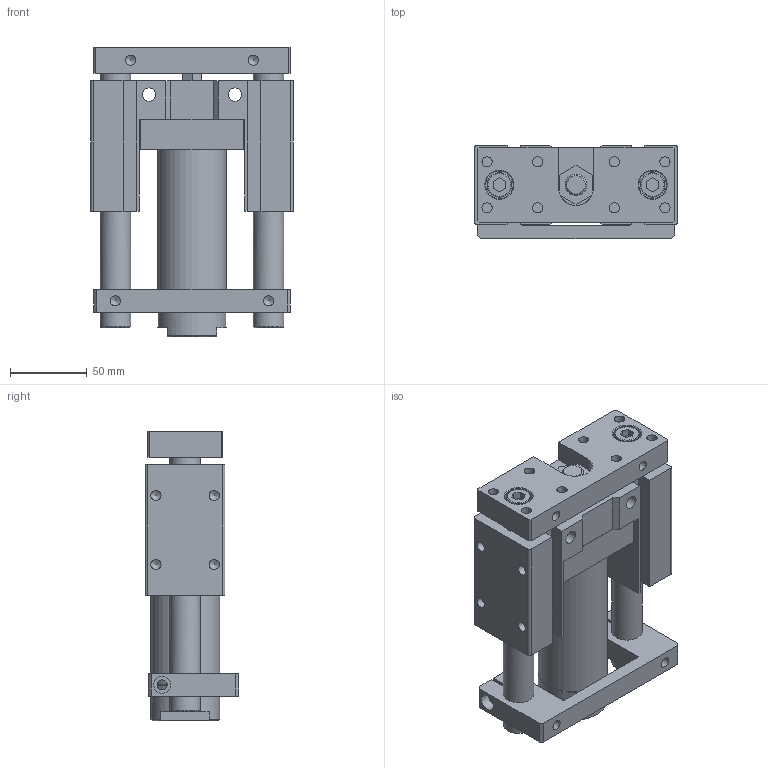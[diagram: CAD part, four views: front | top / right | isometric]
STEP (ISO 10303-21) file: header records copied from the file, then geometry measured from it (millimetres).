
FILE_DESCRIPTION((''),'2;1');
FILE_NAME('I:\3D電子目錄\氣缸\TMB(U)\TMB(U)\TMB(U)40\TMB(U)40x50.stp','2007-10-05T11:40:34',('Administrator'),(''),'Autodesk Inventor 11','Autodesk Inventor 11','');
FILE_SCHEMA(('AUTOMOTIVE_DESIGN { 1 0 10303 214 1 1 1 1 }'));
Length unit declared in the file: millimetre
Products named in the file (1): TMB(U)40
Bounding box: 132 x 61 x 189 mm (x, y, z)
Volume: 764088 mm3; surface area: 124758.8 mm2
Topology: 1 solids, 1 shells, 201 faces, 524 edges, 344 vertices
Faces by surface type: plane 118, bspline 41, cylinder 23, cone 17, torus 2
Full cylindrical faces by diameter (mm): 6.5 x2, 6.647 x6, 11 x1, 14 x1, 16 x2, 18 x2, 20 x2, 45 x2
Entity records: 6100 total; most frequent: CARTESIAN_POINT 1571, DIRECTION 870, ORIENTED_EDGE 858, EDGE_CURVE 429, EDGE_LOOP 324, VERTEX_POINT 319, VECTOR 302, LINE 302
